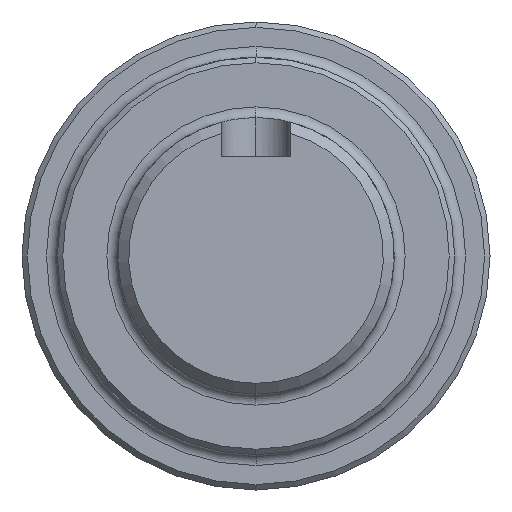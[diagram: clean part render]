
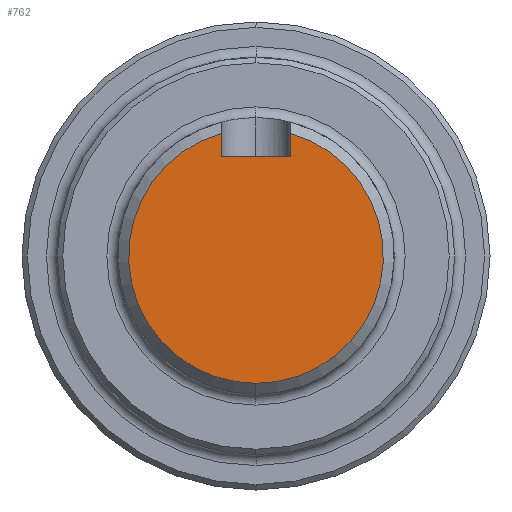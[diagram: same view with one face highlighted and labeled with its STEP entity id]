
A CAD part, left-side view. The second image highlights one B-rep face of the part: STEP entity #762.
In plain terms, the highlighted planar face has unit normal (-1, 0, 0).
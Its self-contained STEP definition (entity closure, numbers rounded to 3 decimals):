
#150 = AXIS2_PLACEMENT_3D ( 'NONE', #834, #844, #845 ) ;
#159 = AXIS2_PLACEMENT_3D ( 'NONE', #947, #948, #949 ) ;
#181 = AXIS2_PLACEMENT_3D ( 'NONE', #436, #437, #438 ) ;
#351 = CARTESIAN_POINT ( 'NONE',  ( -141.84, 3.175, 9.12 ) ) ;
#436 = CARTESIAN_POINT ( 'NONE',  ( -141.84, 0., 0. ) ) ;
#437 = DIRECTION ( 'NONE',  ( -1., 0., 0. ) ) ;
#438 = DIRECTION ( 'NONE',  ( 0., 0., 1. ) ) ;
#596 = EDGE_LOOP ( 'NONE', ( #1506, #1508, #1517, #1510, #1507 ) ) ;
#650 = VERTEX_POINT ( 'NONE', #351 ) ;
#706 = VERTEX_POINT ( 'NONE', #1231 ) ;
#762 = ADVANCED_FACE ( 'NONE', ( #1648 ), #841, .T. ) ;
#776 = VERTEX_POINT ( 'NONE', #869 ) ;
#777 = VERTEX_POINT ( 'NONE', #870 ) ;
#834 = CARTESIAN_POINT ( 'NONE',  ( -141.84, 0., 0. ) ) ;
#841 = PLANE ( 'NONE',  #150 ) ;
#844 = DIRECTION ( 'NONE',  ( -1., 0., 0. ) ) ;
#845 = DIRECTION ( 'NONE',  ( 0., 0., 1. ) ) ;
#869 = CARTESIAN_POINT ( 'NONE',  ( -141.84, 0., -11.7 ) ) ;
#870 = CARTESIAN_POINT ( 'NONE',  ( -141.84, 3.175, 11.261 ) ) ;
#899 = CARTESIAN_POINT ( 'NONE',  ( -141.84, -3.175, 9.12 ) ) ;
#947 = CARTESIAN_POINT ( 'NONE',  ( -141.84, 0., 0. ) ) ;
#948 = DIRECTION ( 'NONE',  ( -1., 0., 0. ) ) ;
#949 = DIRECTION ( 'NONE',  ( 0., 0., 1. ) ) ;
#959 = CARTESIAN_POINT ( 'NONE',  ( -141.84, -3.175, 9.12 ) ) ;
#974 = DIRECTION ( 'NONE',  ( 0., 0., 1. ) ) ;
#975 = CARTESIAN_POINT ( 'NONE',  ( -141.84, 0., 9.12 ) ) ;
#976 = DIRECTION ( 'NONE',  ( 0., 1., 0. ) ) ;
#977 = CARTESIAN_POINT ( 'NONE',  ( -141.84, 3.175, 9.12 ) ) ;
#978 = DIRECTION ( 'NONE',  ( 0., 0., 1. ) ) ;
#1228 = VERTEX_POINT ( 'NONE', #899 ) ;
#1231 = CARTESIAN_POINT ( 'NONE',  ( -141.84, -3.175, 11.261 ) ) ;
#1376 = EDGE_CURVE ( 'NONE', #777, #776, #1668, .T. ) ;
#1381 = EDGE_CURVE ( 'NONE', #1228, #706, #1660, .T. ) ;
#1382 = EDGE_CURVE ( 'NONE', #1228, #650, #1674, .T. ) ;
#1383 = EDGE_CURVE ( 'NONE', #650, #777, #1678, .T. ) ;
#1432 = EDGE_CURVE ( 'NONE', #776, #706, #1744, .T. ) ;
#1506 = ORIENTED_EDGE ( 'NONE', *, *, #1381, .F. ) ;
#1507 = ORIENTED_EDGE ( 'NONE', *, *, #1432, .T. ) ;
#1508 = ORIENTED_EDGE ( 'NONE', *, *, #1382, .T. ) ;
#1510 = ORIENTED_EDGE ( 'NONE', *, *, #1376, .T. ) ;
#1517 = ORIENTED_EDGE ( 'NONE', *, *, #1383, .T. ) ;
#1648 = FACE_OUTER_BOUND ( 'NONE', #596, .T. ) ;
#1660 = LINE ( 'NONE', #959, #1677 ) ;
#1668 = CIRCLE ( 'NONE', #159, 11.7 ) ;
#1674 = LINE ( 'NONE', #975, #1679 ) ;
#1677 = VECTOR ( 'NONE', #974, 1000. ) ;
#1678 = LINE ( 'NONE', #977, #1681 ) ;
#1679 = VECTOR ( 'NONE', #976, 1000. ) ;
#1681 = VECTOR ( 'NONE', #978, 1000. ) ;
#1744 = CIRCLE ( 'NONE', #181, 11.7 ) ;
